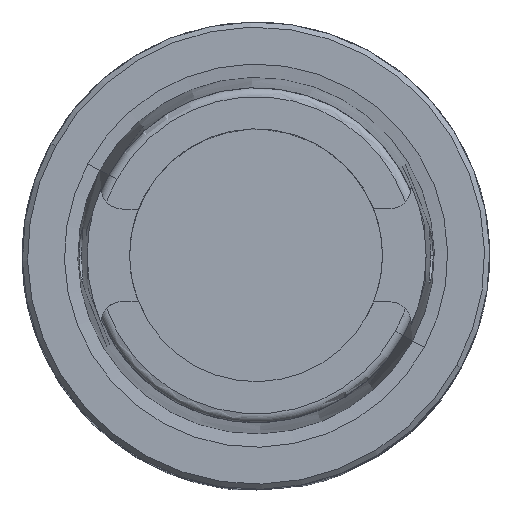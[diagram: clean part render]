
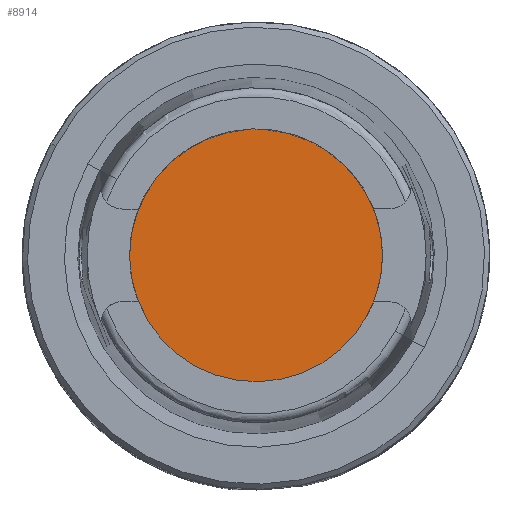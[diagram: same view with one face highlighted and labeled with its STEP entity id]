
A CAD part, top view. The second image highlights one B-rep face of the part: STEP entity #8914.
In plain terms, the highlighted planar face has unit normal (0, 0, 1).
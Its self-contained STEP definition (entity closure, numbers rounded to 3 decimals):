
#8827=AXIS2_PLACEMENT_3D('Circle Axis2P3D',#8825,#8826,$) ;
#8866=AXIS2_PLACEMENT_3D('Circle Axis2P3D',#8864,#8865,$) ;
#8890=AXIS2_PLACEMENT_3D('Circle Axis2P3D',#8888,#8889,$) ;
#8907=AXIS2_PLACEMENT_3D('Plane Axis2P3D',#8904,#8905,#8906) ;
#8822=CARTESIAN_POINT('Vertex',(17.025,0.,-10.)) ;
#8825=CARTESIAN_POINT('Axis2P3D Location',(0.,0.,-10.)) ;
#8829=CARTESIAN_POINT('Vertex',(-17.025,0.,-10.)) ;
#8864=CARTESIAN_POINT('Axis2P3D Location',(0.,0.,-10.)) ;
#8868=CARTESIAN_POINT('Vertex',(-14.941,8.162,-10.)) ;
#8888=CARTESIAN_POINT('Axis2P3D Location',(0.,0.,-10.)) ;
#8904=CARTESIAN_POINT('Axis2P3D Location',(-15.725,0.,-10.)) ;
#8826=DIRECTION('Axis2P3D Direction',(0.,0.,-1.)) ;
#8865=DIRECTION('Axis2P3D Direction',(0.,0.,-1.)) ;
#8889=DIRECTION('Axis2P3D Direction',(0.,0.,-1.)) ;
#8905=DIRECTION('Axis2P3D Direction',(0.,0.,-1.)) ;
#8906=DIRECTION('Axis2P3D XDirection',(-1.,0.,0.)) ;
#8910=ORIENTED_EDGE('',*,*,#8892,.F.) ;
#8911=ORIENTED_EDGE('',*,*,#8870,.F.) ;
#8912=ORIENTED_EDGE('',*,*,#8831,.F.) ;
#8914=ADVANCED_FACE('NOCUT',(#8913),#8908,.F.) ;
#8828=CIRCLE('generated circle',#8827,17.025) ;
#8867=CIRCLE('generated circle',#8866,17.025) ;
#8891=CIRCLE('generated circle',#8890,17.025) ;
#8831=EDGE_CURVE('',#8823,#8830,#8828,.T.) ;
#8870=EDGE_CURVE('',#8830,#8869,#8867,.T.) ;
#8892=EDGE_CURVE('',#8869,#8823,#8891,.T.) ;
#8909=EDGE_LOOP('',(#8910,#8911,#8912)) ;
#8913=FACE_OUTER_BOUND('',#8909,.T.) ;
#8908=PLANE('',#8907) ;
#8823=VERTEX_POINT('',#8822) ;
#8830=VERTEX_POINT('',#8829) ;
#8869=VERTEX_POINT('',#8868) ;
